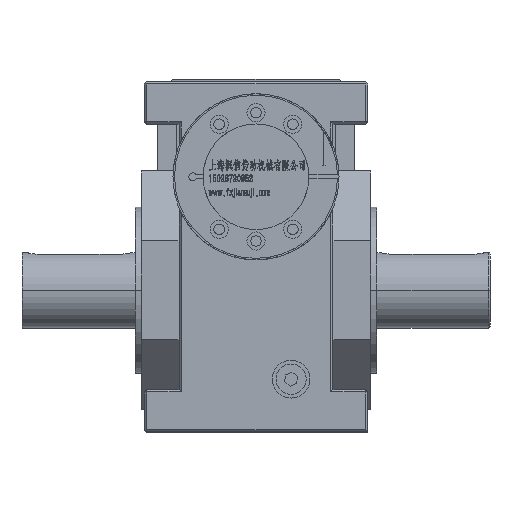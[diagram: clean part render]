
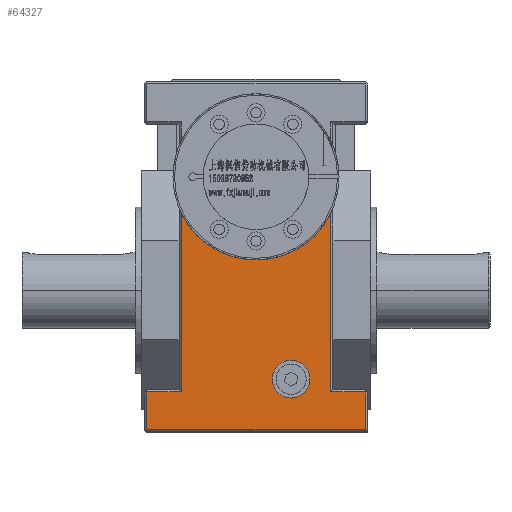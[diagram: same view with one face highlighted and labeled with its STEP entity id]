
A CAD part, top view. The second image highlights one B-rep face of the part: STEP entity #64327.
In plain terms, the highlighted planar face has unit normal (0, 0, 1).
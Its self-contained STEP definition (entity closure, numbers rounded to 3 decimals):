
#1346 = CARTESIAN_POINT ( 'NONE',  ( -49.5, 51.026, 104. ) ) ;
#3023 = VECTOR ( 'NONE', #35508, 1000. ) ;
#3808 = VECTOR ( 'NONE', #59405, 1000. ) ;
#4667 = CARTESIAN_POINT ( 'NONE',  ( 72.5, -67.5, 104. ) ) ;
#7147 = EDGE_CURVE ( 'NONE', #87296, #45309, #52212, .T. ) ;
#7328 = VERTEX_POINT ( 'NONE', #92958 ) ;
#10478 = DIRECTION ( 'NONE',  ( -1., 0., 0. ) ) ;
#12111 = AXIS2_PLACEMENT_3D ( 'NONE', #31796, #66859, #93315 ) ;
#12461 = CARTESIAN_POINT ( 'NONE',  ( 74., -92.5, 104. ) ) ;
#13911 = VECTOR ( 'NONE', #52318, 1000. ) ;
#15385 = VERTEX_POINT ( 'NONE', #57157 ) ;
#15524 = DIRECTION ( 'NONE',  ( 0., 0., 1. ) ) ;
#16606 = EDGE_CURVE ( 'NONE', #70829, #76019, #57719, .T. ) ;
#17109 = CARTESIAN_POINT ( 'NONE',  ( 23.262, -59., 104. ) ) ;
#17258 = LINE ( 'NONE', #104619, #13911 ) ;
#18133 = EDGE_CURVE ( 'NONE', #45309, #39878, #17258, .T. ) ;
#18310 = ORIENTED_EDGE ( 'NONE', *, *, #111172, .F. ) ;
#18386 = AXIS2_PLACEMENT_3D ( 'NONE', #107323, #19946, #54447 ) ;
#19946 = DIRECTION ( 'NONE',  ( 0., 0., 1. ) ) ;
#21484 = ORIENTED_EDGE ( 'NONE', *, *, #70807, .F. ) ;
#21565 = VECTOR ( 'NONE', #10478, 1000. ) ;
#23480 = DIRECTION ( 'NONE',  ( 0., 1., 0. ) ) ;
#26035 = CIRCLE ( 'NONE', #108680, 12.5 ) ;
#26634 = ORIENTED_EDGE ( 'NONE', *, *, #83214, .F. ) ;
#26817 = DIRECTION ( 'NONE',  ( 0., -1., 0. ) ) ;
#26827 = DIRECTION ( 'NONE',  ( 1., 0., 0. ) ) ;
#27603 = ORIENTED_EDGE ( 'NONE', *, *, #16606, .T. ) ;
#28253 = LINE ( 'NONE', #93049, #78655 ) ;
#29147 = EDGE_CURVE ( 'NONE', #7328, #15385, #107294, .T. ) ;
#30247 = ORIENTED_EDGE ( 'NONE', *, *, #55275, .T. ) ;
#30302 = EDGE_CURVE ( 'NONE', #39878, #7328, #34890, .T. ) ;
#31796 = CARTESIAN_POINT ( 'NONE',  ( 74., 138., 104. ) ) ;
#32778 = VERTEX_POINT ( 'NONE', #45911 ) ;
#33779 = CARTESIAN_POINT ( 'NONE',  ( 35.762, -59., 104. ) ) ;
#34890 = LINE ( 'NONE', #52716, #95777 ) ;
#35508 = DIRECTION ( 'NONE',  ( 0., -1., 0. ) ) ;
#36061 = CARTESIAN_POINT ( 'NONE',  ( -49.5, -66., 104. ) ) ;
#39878 = VERTEX_POINT ( 'NONE', #87837 ) ;
#42577 = CIRCLE ( 'NONE', #99427, 55. ) ;
#43215 = ORIENTED_EDGE ( 'NONE', *, *, #18133, .T. ) ;
#45309 = VERTEX_POINT ( 'NONE', #80495 ) ;
#45911 = CARTESIAN_POINT ( 'NONE',  ( 10.762, -59., 104. ) ) ;
#46976 = CARTESIAN_POINT ( 'NONE',  ( 49.5, -67.5, 104. ) ) ;
#48498 = FACE_BOUND ( 'NONE', #92820, .T. ) ;
#50212 = CARTESIAN_POINT ( 'NONE',  ( 49.5, 54.409, 104. ) ) ;
#50592 = CARTESIAN_POINT ( 'NONE',  ( 0., 75., 104. ) ) ;
#51941 = LINE ( 'NONE', #80036, #21565 ) ;
#52212 = LINE ( 'NONE', #36061, #3023 ) ;
#52318 = DIRECTION ( 'NONE',  ( -1., 0., 0. ) ) ;
#52716 = CARTESIAN_POINT ( 'NONE',  ( -72.5, 138., 104. ) ) ;
#53398 = VERTEX_POINT ( 'NONE', #33779 ) ;
#54447 = DIRECTION ( 'NONE',  ( 1., 0., 0. ) ) ;
#55275 = EDGE_CURVE ( 'NONE', #15385, #96833, #28253, .T. ) ;
#56723 = DIRECTION ( 'NONE',  ( 1., 0., 0. ) ) ;
#57157 = CARTESIAN_POINT ( 'NONE',  ( 72.5, -92.5, 104. ) ) ;
#57701 = FACE_OUTER_BOUND ( 'NONE', #101864, .T. ) ;
#57719 = LINE ( 'NONE', #50212, #3808 ) ;
#59405 = DIRECTION ( 'NONE',  ( 0., 1., 0. ) ) ;
#64327 = ADVANCED_FACE ( 'NONE', ( #48498, #57701 ), #111698, .F. ) ;
#66859 = DIRECTION ( 'NONE',  ( 0., 0., -1. ) ) ;
#66900 = EDGE_CURVE ( 'NONE', #96833, #70829, #51941, .T. ) ;
#68129 = VECTOR ( 'NONE', #56723, 1000. ) ;
#70735 = ORIENTED_EDGE ( 'NONE', *, *, #66900, .T. ) ;
#70807 = EDGE_CURVE ( 'NONE', #32778, #53398, #78967, .T. ) ;
#70829 = VERTEX_POINT ( 'NONE', #46976 ) ;
#76019 = VERTEX_POINT ( 'NONE', #87496 ) ;
#78655 = VECTOR ( 'NONE', #23480, 1000. ) ;
#78967 = CIRCLE ( 'NONE', #18386, 12.5 ) ;
#80036 = CARTESIAN_POINT ( 'NONE',  ( 74., -67.5, 104. ) ) ;
#80495 = CARTESIAN_POINT ( 'NONE',  ( -49.5, -67.5, 104. ) ) ;
#83214 = EDGE_CURVE ( 'NONE', #53398, #32778, #26035, .T. ) ;
#87296 = VERTEX_POINT ( 'NONE', #1346 ) ;
#87496 = CARTESIAN_POINT ( 'NONE',  ( 49.5, 51.026, 104. ) ) ;
#87837 = CARTESIAN_POINT ( 'NONE',  ( -72.5, -67.5, 104. ) ) ;
#92453 = ORIENTED_EDGE ( 'NONE', *, *, #29147, .T. ) ;
#92820 = EDGE_LOOP ( 'NONE', ( #26634, #21484 ) ) ;
#92958 = CARTESIAN_POINT ( 'NONE',  ( -72.5, -92.5, 104. ) ) ;
#93049 = CARTESIAN_POINT ( 'NONE',  ( 72.5, -66., 104. ) ) ;
#93315 = DIRECTION ( 'NONE',  ( -1., 0., 0. ) ) ;
#94835 = DIRECTION ( 'NONE',  ( 0., 1., 0. ) ) ;
#95777 = VECTOR ( 'NONE', #26817, 1000. ) ;
#96833 = VERTEX_POINT ( 'NONE', #4667 ) ;
#99427 = AXIS2_PLACEMENT_3D ( 'NONE', #50592, #15524, #94835 ) ;
#101864 = EDGE_LOOP ( 'NONE', ( #92453, #30247, #70735, #27603, #18310, #107992, #43215, #113830 ) ) ;
#104619 = CARTESIAN_POINT ( 'NONE',  ( -74., -67.5, 104. ) ) ;
#107294 = LINE ( 'NONE', #12461, #68129 ) ;
#107323 = CARTESIAN_POINT ( 'NONE',  ( 23.262, -59., 104. ) ) ;
#107992 = ORIENTED_EDGE ( 'NONE', *, *, #7147, .T. ) ;
#108680 = AXIS2_PLACEMENT_3D ( 'NONE', #17109, #110449, #26827 ) ;
#110449 = DIRECTION ( 'NONE',  ( 0., 0., 1. ) ) ;
#111172 = EDGE_CURVE ( 'NONE', #87296, #76019, #42577, .T. ) ;
#111698 = PLANE ( 'NONE',  #12111 ) ;
#113830 = ORIENTED_EDGE ( 'NONE', *, *, #30302, .T. ) ;
